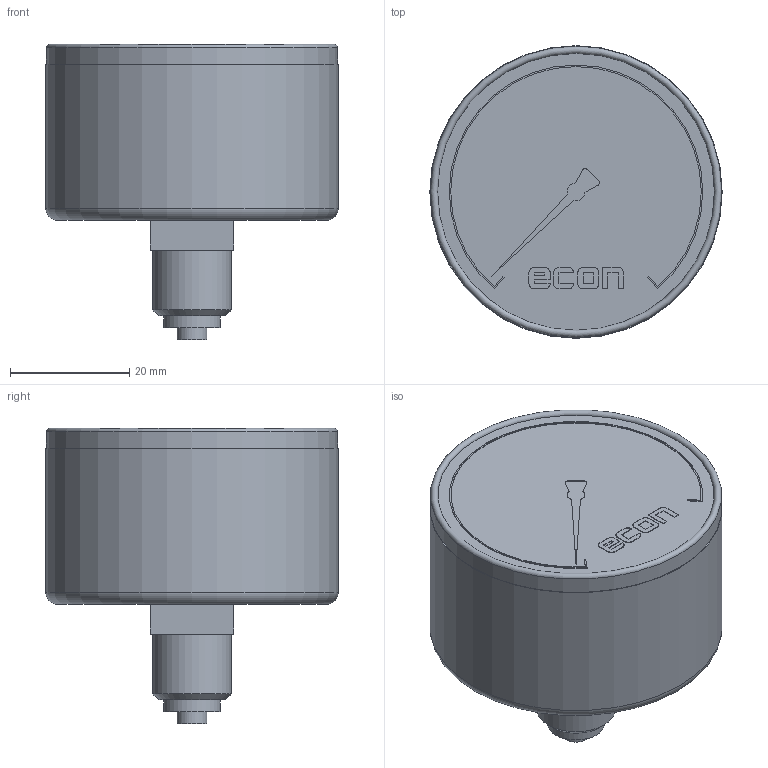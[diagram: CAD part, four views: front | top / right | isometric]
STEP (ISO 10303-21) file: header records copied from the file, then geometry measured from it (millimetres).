
FILE_DESCRIPTION(/* description */ ('Eriks item no: 10059713'),/* implementation_level */ '2;1');
FILE_NAME(/* name */ 'L:\DATA\ENG\Inventor\Econ 3D modellen\manometers & thermometers\1401A\1401A-R50 _ 0 - 10 bar.stp',/* time_stamp */ '2022-02-24T14:44:17+01:00',/* author */ ('roger.thijssen'),/* organization */ (''),/* preprocessor_version */ 'ST-DEVELOPER v18',/* originating_system */ 'Autodesk Inventor 2020',/* authorisation */ '');
FILE_SCHEMA (('AUTOMOTIVE_DESIGN { 1 0 10303 214 3 1 1 }'));
Length unit declared in the file: millimetre
Products named in the file (1): Pressure gauge, 1401A-R50 _ 0 - 10 bar
Bounding box: 49 x 49 x 49.5 mm (x, y, z)
Volume: 57057.1 mm3; surface area: 9022.1 mm2
Topology: 1 solids, 1 shells, 93 faces, 242 edges, 164 vertices
Faces by surface type: plane 66, cylinder 24, torus 2, cone 1
Full cylindrical faces by diameter (mm): 5 x1, 9.5 x1, 13.157 x1, 48.8 x1, 49 x1
Entity records: 2975 total; most frequent: CARTESIAN_POINT 500, DIRECTION 494, ORIENTED_EDGE 484, EDGE_CURVE 242, LINE 178, VECTOR 178, VERTEX_POINT 164, AXIS2_PLACEMENT_3D 158
